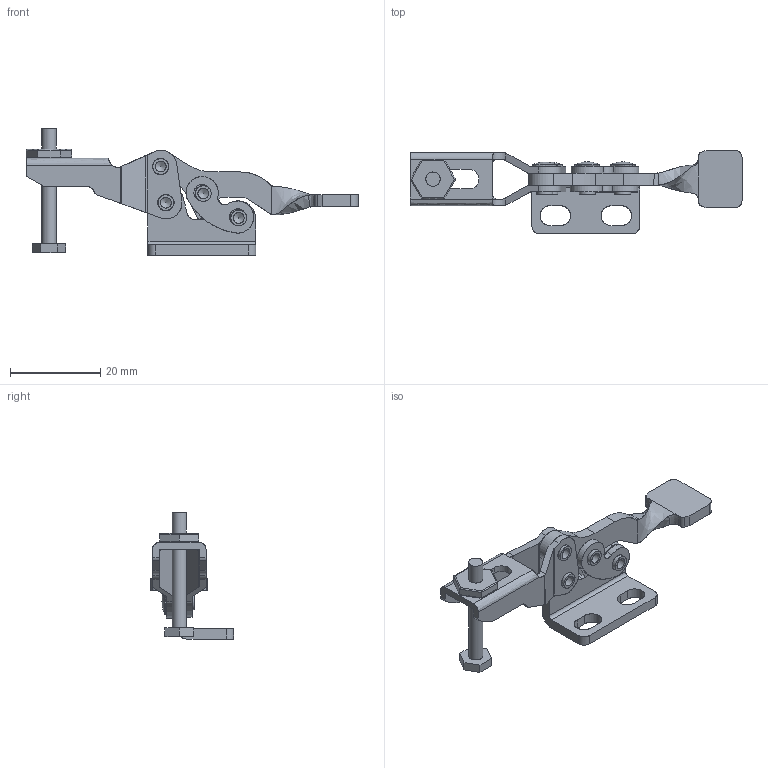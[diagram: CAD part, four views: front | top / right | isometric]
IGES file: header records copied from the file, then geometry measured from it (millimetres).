
Global section: file name: C:\T&M Tech\Carbide Tech\Work\100 series\hl-101\hl-101.igs; native system: Unigraphics Version X V2.0; preprocessor: Unigraphics NX IGES V2.0; date: 20041216.110831; units: inch
Bounding box: 73.48 x 18.39 x 27.94 mm (x, y, z)
Surface area: 5643 mm2 (no closed solid volume)
Topology: 0 solids, 0 shells, 216 faces, 2632 edges, 2597 vertices
Faces by surface type: revolution 111, extrusion 95, bspline 8, offset 2
